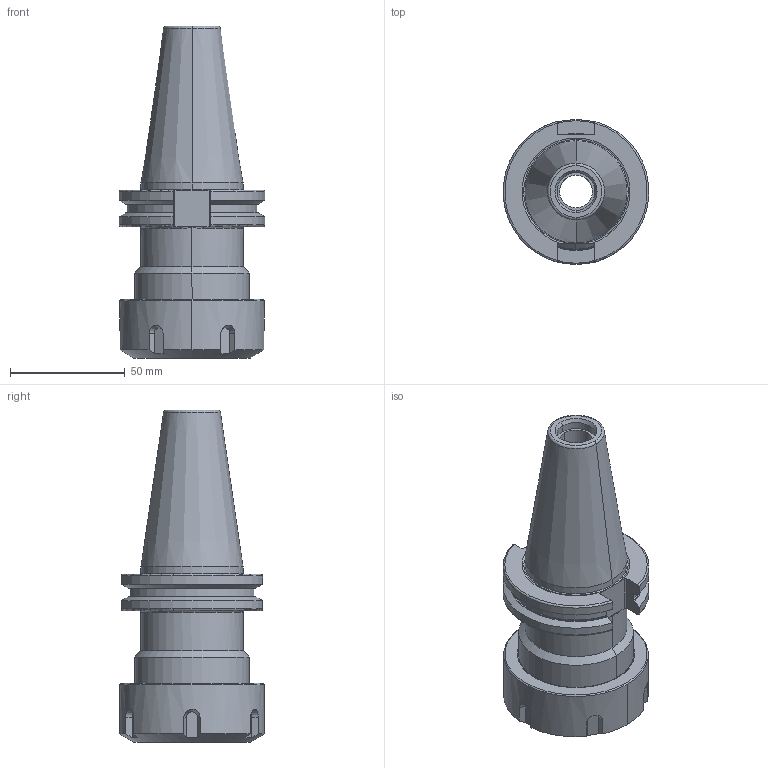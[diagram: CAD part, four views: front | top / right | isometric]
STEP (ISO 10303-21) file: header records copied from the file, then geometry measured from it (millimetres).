
FILE_DESCRIPTION (( 'STEP AP214' ), '1' );
FILE_NAME ('RC4ER40300.STEP', '2019-02-04T21:32:20', ( '' ), ( '' ), 'SwSTEP 2.0', 'SolidWorks 2019', '' );
FILE_SCHEMA (( 'AUTOMOTIVE_DESIGN' ));
Length unit declared in the file: inch
Products named in the file (1): RC4ER40300
Bounding box: 63.26 x 63 x 144.45 mm (x, y, z)
Volume: 154822.8 mm3; surface area: 42776.3 mm2
Topology: 1 solids, 1 shells, 335 faces, 869 edges, 564 vertices
Faces by surface type: plane 206, cylinder 38, cone 37, bspline 34, torus 20
Entity records: 16917 total; most frequent: CARTESIAN_POINT 4545, ORIENTED_EDGE 1734, DIRECTION 1493, EDGE_CURVE 867, LINE 597, VECTOR 597, VERTEX_POINT 564, AXIS2_PLACEMENT_3D 448
